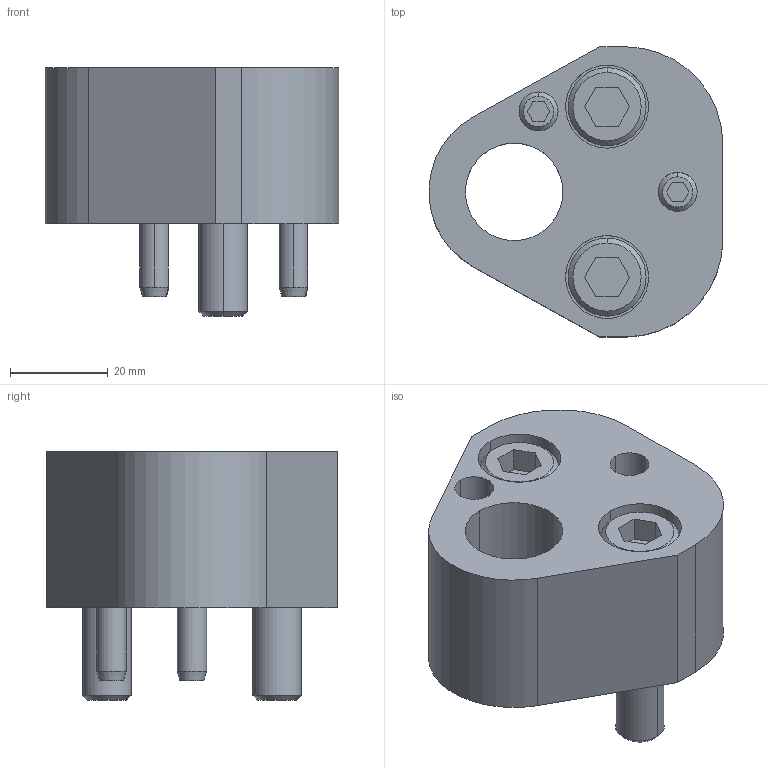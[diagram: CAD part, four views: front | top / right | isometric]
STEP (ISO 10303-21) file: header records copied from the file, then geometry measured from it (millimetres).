
FILE_DESCRIPTION(/* description */ (''),/* implementation_level */ '2;1');
FILE_NAME(/* name */ '3d_crnar20_03625_r00.stp',/* time_stamp */ '2011-01-10T14:16:20+09:00',/* author */ ('MISUMI'),/* organization */ (''),/* preprocessor_version */ 'ST-DEVELOPER v11',/* originating_system */ 'UGS - NX 5.0',/* authorisation */ '');
FILE_SCHEMA (('CONFIG_CONTROL_DESIGN'));
Length unit declared in the file: millimetre
Products named in the file (1): 3d_crnar20_03625_r00
Bounding box: 60.24 x 59.5 x 51 mm (x, y, z)
Volume: 75923 mm3; surface area: 23044.5 mm2
Topology: 7 solids, 7 shells, 135 faces, 294 edges, 188 vertices
Faces by surface type: plane 60, cylinder 49, cone 26
Entity records: 3836 total; most frequent: DIRECTION 684, CARTESIAN_POINT 672, ORIENTED_EDGE 588, EDGE_CURVE 294, AXIS2_PLACEMENT_3D 260, VERTEX_POINT 188, LINE 164, VECTOR 164
